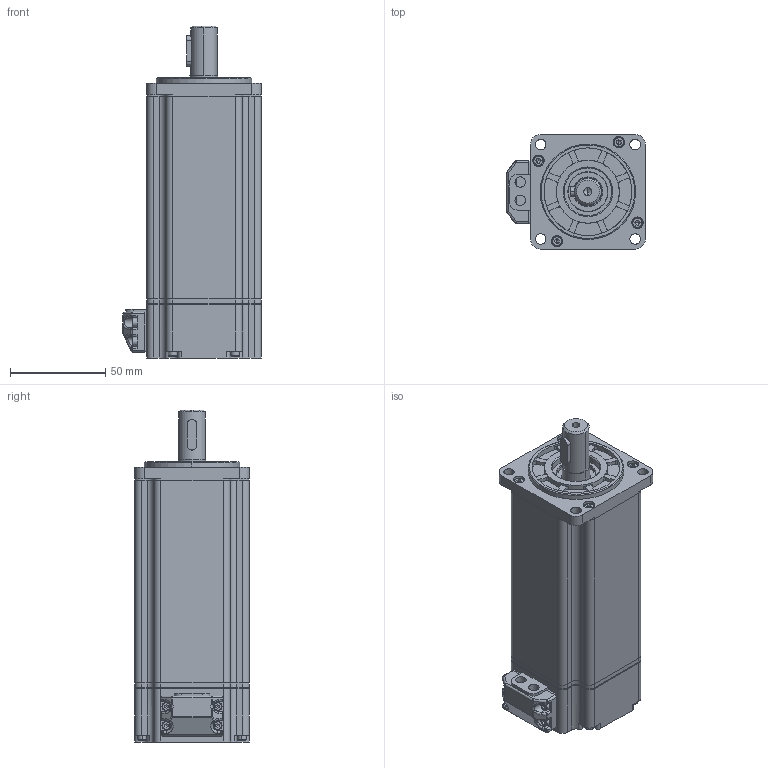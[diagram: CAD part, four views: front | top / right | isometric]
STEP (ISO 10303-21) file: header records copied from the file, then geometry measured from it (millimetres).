
FILE_DESCRIPTION (( 'STEP AP203' ), '1' );
FILE_NAME ('淕儂蚾饜.STEP', '2020-04-01T08:56:25', ( 'admin' ), ( '' ), 'SwSTEP 2.0', 'SolidWorks 2016', '' );
FILE_SCHEMA (( 'CONFIG_CONTROL_DESIGN' ));
Length unit declared in the file: millimetre
Products named in the file (1): 淕儂蚾饜
Bounding box: 72.5 x 60 x 174 mm (x, y, z)
Volume: 170330.6 mm3; surface area: 107036.3 mm2
Topology: 22 solids, 22 shells, 1310 faces, 3568 edges, 2238 vertices
Faces by surface type: cylinder 552, plane 465, cone 125, torus 98, sphere 58, bspline 12
Entity records: 43052 total; most frequent: CARTESIAN_POINT 9933, DIRECTION 7265, ORIENTED_EDGE 6788, EDGE_CURVE 3394, AXIS2_PLACEMENT_3D 2862, VERTEX_POINT 2174, CIRCLE 1563, VECTOR 1541
